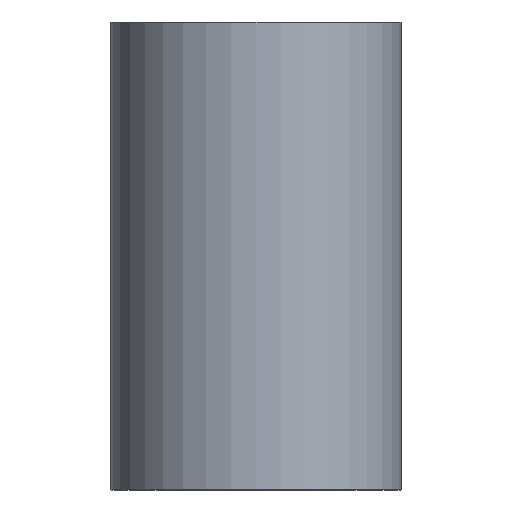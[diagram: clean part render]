
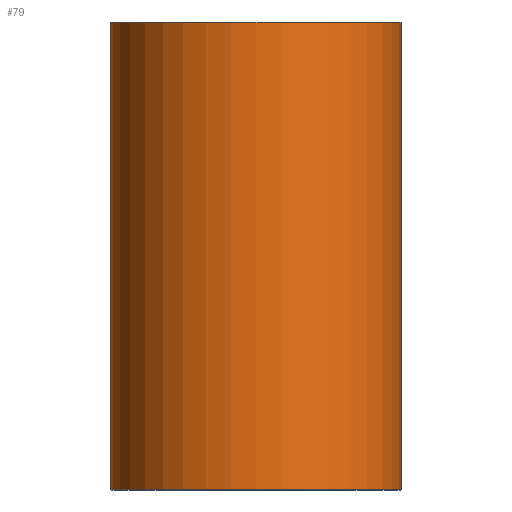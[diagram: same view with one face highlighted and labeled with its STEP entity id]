
A CAD part, front view. The second image highlights one B-rep face of the part: STEP entity #79.
In plain terms, the highlighted cylindrical face has radius 31 mm (diameter 62 mm), a full revolution.
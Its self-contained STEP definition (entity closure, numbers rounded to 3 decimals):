
#79=ADVANCED_FACE('',(#96,#97),#98,.T.);
#96=FACE_OUTER_BOUND('',#120,.T.);
#97=FACE_OUTER_BOUND('',#121,.T.);
#98=CYLINDRICAL_SURFACE('',#122,31.0);
#120=EDGE_LOOP('',(#152));
#121=EDGE_LOOP('',(#153));
#122=AXIS2_PLACEMENT_3D('',#154,#155,#156);
#152=ORIENTED_EDGE('',*,*,#178,.T.);
#153=ORIENTED_EDGE('',*,*,#177,.T.);
#154=CARTESIAN_POINT('',(0.0,0.0,100.0));
#155=DIRECTION('',(0.0,0.0,-1.0));
#156=DIRECTION('',(-1.0,0.0,0.0));
#177=EDGE_CURVE('',#190,#190,#191,.T.);
#178=EDGE_CURVE('',#192,#192,#193,.F.);
#190=VERTEX_POINT('',#206);
#191=CIRCLE('',#207,31.0);
#192=VERTEX_POINT('',#208);
#193=CIRCLE('',#209,31.0);
#206=CARTESIAN_POINT('',(31.0,0.0,0.2));
#207=AXIS2_PLACEMENT_3D('',#227,#228,#229);
#208=CARTESIAN_POINT('',(31.0,0.,99.8));
#209=AXIS2_PLACEMENT_3D('',#230,#231,#232);
#227=CARTESIAN_POINT('',(0.0,0.0,0.2));
#228=DIRECTION('',(0.0,0.0,1.0));
#229=DIRECTION('',(1.0,0.0,0.0));
#230=CARTESIAN_POINT('',(0.0,0.0,99.8));
#231=DIRECTION('',(0.0,0.0,1.0));
#232=DIRECTION('',(1.0,0.0,0.0));
